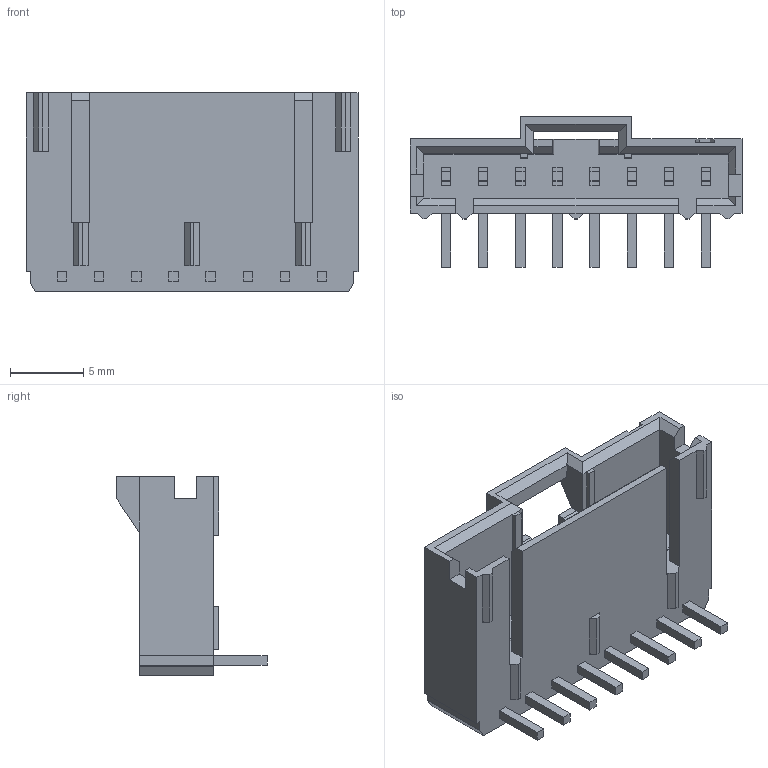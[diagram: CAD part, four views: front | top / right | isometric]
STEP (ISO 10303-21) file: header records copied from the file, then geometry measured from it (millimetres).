
FILE_DESCRIPTION((''),'2;1');
FILE_NAME('C-5-103635-7','2017-05-23T',('workeradm'),('Tyco Electronics Ltd.'),'CREO PARAMETRIC BY PTC INC, 2016050','CREO PARAMETRIC BY PTC INC, 2016050','');
FILE_SCHEMA(('AUTOMOTIVE_DESIGN { 1 0 10303 214 1 1 1 1 }'));
Length unit declared in the file: millimetre
Products named in the file (1): C-5-103635-7
Bounding box: 22.73 x 10.28 x 13.59 mm (x, y, z)
Volume: 983.2 mm3; surface area: 1583.5 mm2
Topology: 1 solids, 1 shells, 209 faces, 564 edges, 372 vertices
Faces by surface type: plane 207, cylinder 2
Entity records: 6586 total; most frequent: CARTESIAN_POINT 1147, ORIENTED_EDGE 1128, DIRECTION 986, EDGE_CURVE 564, VECTOR 560, LINE 560, VERTEX_POINT 372, EDGE_LOOP 226
